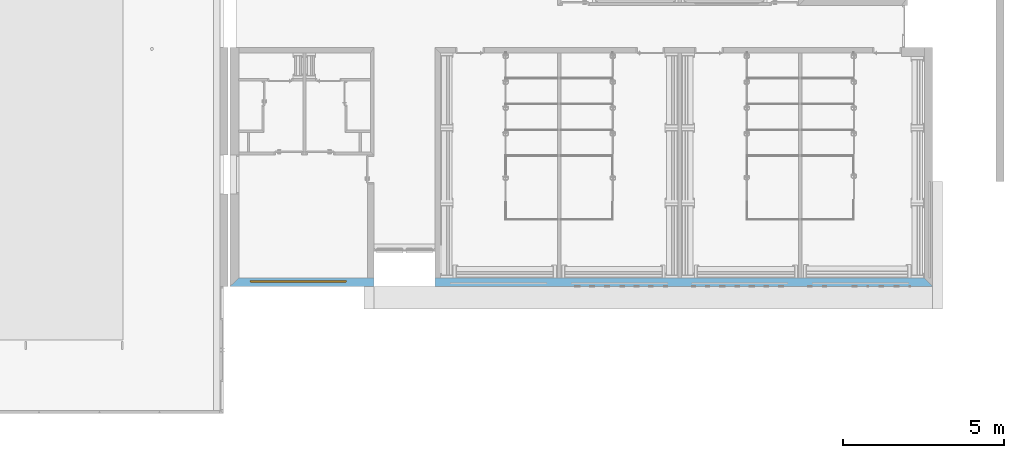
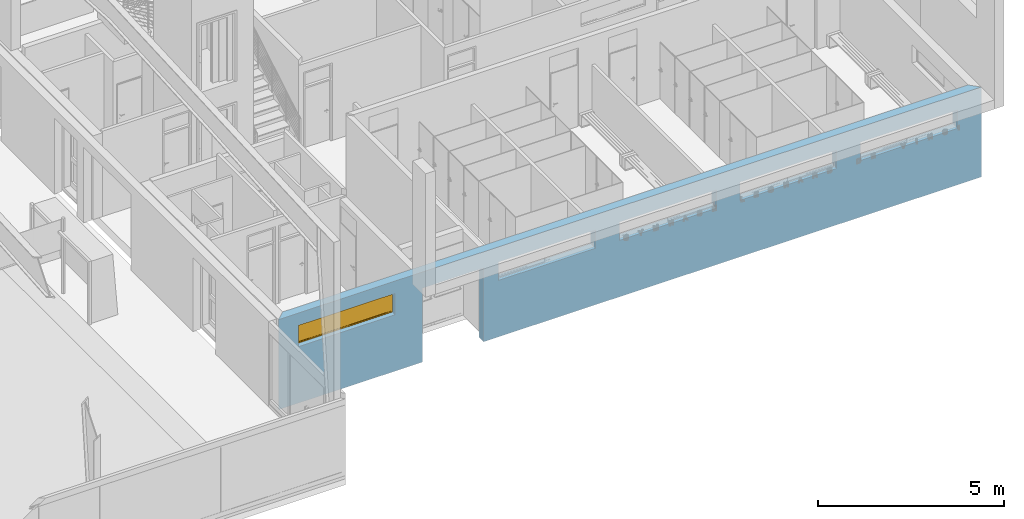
# One storey, part 33 of 45: 1 window, 6 openings, plus 1 element that does not belong to this part.
"""IFC2X3 building model written with IfcOpenShell, lengths in metres."""

from ifc_helpers import new_model, entity, si_unit, converted_unit, money_unit, direction, frame, origin_with_axes, place, context, subcontext, project, spatial, polyline, outline, extrude, open_shell, faceted_brep, surface_model, material, layer, layer_set, layer_usage, type_object, element, fill, save


model = new_model("IFC2X3")

# Units and contexts
model_context = context("Model", 3, precision=1e-05, world=origin_with_axes(), true_north=direction((0.0, 1.0)))
body_context = subcontext(model_context, "Body", "Model", "MODEL_VIEW")
ifc_project = project(units=[si_unit("LENGTHUNIT", "METRE"), si_unit("AREAUNIT", "SQUARE_METRE"), si_unit("VOLUMEUNIT", "CUBIC_METRE"), converted_unit("PLANEANGLEUNIT", "DEGREE", entity("IfcPlaneAngleMeasure", 0.0174532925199), si_unit("PLANEANGLEUNIT", "RADIAN"), dimensions=[0, 0, 0, 0, 0, 0, 0]), si_unit("SOLIDANGLEUNIT", "STERADIAN"), money_unit("EUR"), converted_unit("TIMEUNIT", "Year", entity("IfcTimeMeasure", 31556926.0), si_unit("TIMEUNIT", "SECOND"), dimensions=[0, 0, 0, 0, 0, 0, 0]), si_unit("MASSUNIT", "GRAM"), si_unit("THERMODYNAMICTEMPERATUREUNIT", "DEGREE_CELSIUS"), si_unit("LUMINOUSINTENSITYUNIT", "LUMEN")], contexts=[model_context])

# Site, building, storey
site_placement = place(None, origin_with_axes())
site = spatial("IfcSite", under=ifc_project, at=site_placement, Name="Site", CompositionType="ELEMENT")
building_placement = place(site_placement, origin_with_axes())
building = spatial("IfcBuilding", under=site, at=building_placement, Name="Bâtiment", CompositionType="ELEMENT")
storey_placement = place(building_placement, origin_with_axes())
storey = spatial("IfcBuildingStorey", under=building, at=storey_placement, Name="NIVEAU BAS GYMNASE", CompositionType="ELEMENT", Elevation=0.0)

# Wall, openings, window
ifc_material_1 = material(Name="Hachure solide* 2593434267")
ifc_layer_1 = layer(ifc_material_1, 0.16, ventilated="UNKNOWN")
ifc_material_2 = material(Name="Empty Fill 290923149")
ifc_layer_2 = layer(ifc_material_2, 0.08, ventilated="UNKNOWN")
ifc_material_3 = material(Name="Hachure solide* 3992800808")
ifc_layer_3 = layer(ifc_material_3, 0.02, ventilated="UNKNOWN")
ifc_layer_set = layer_set([ifc_layer_1, ifc_layer_2, ifc_layer_3], Name="•GYMN 16+10 (1)")
ifc_layer_usage = layer_usage(ifc_layer_set, "AXIS2", "POSITIVE", 0.0)
wall_type = type_object("IfcWallType", Name="•GYMN 16+10 260", PredefinedType="NOTDEFINED")
wall_placement = place(storey_placement, frame((45.478457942, 5.86881571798, -0.2), z_axis=(0.0, 0.0, 1.0), x_axis=(1.0, 0.0, 0.0)))
wall = element("IfcWallStandardCase", 1, at=wall_placement, inside=storey, type_object=wall_type, material=ifc_layer_usage, Name="Mur-022", context=body_context, shape_type="SweptSolid", body=[
    extrude(outline(polyline([(0.0, 0.0), (21.78, 0.0), (21.52, 0.26), (0.28, 0.26), (0.0, 0.0)])), origin_with_axes(), (0.0, 0.0, 1.0), 2.95),
])
opening_1_placement = place(wall_placement, frame((12.0763384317, 0.0, 1.85), z_axis=(0.0, 0.0, 1.0), x_axis=(1.0, 0.0, 0.0)))
element("IfcOpeningElement", 2, at=opening_1_placement, cuts=wall, Name="Fen-027", context=body_context, shape_type="SweptSolid", body=[
    extrude(outline(polyline([(1.5, 0.0), (-1.5, 0.0), (-1.5, -0.6), (1.5, -0.6), (1.5, 0.0)])), frame((0.0, 0.12, 0.0), z_axis=(0.0, 1.0, 0.0), x_axis=(1.0, 0.0, 0.0)), (0.0, 0.0, 1.0), 0.4),
    extrude(outline(polyline([(1.5, 0.6), (-1.5, 0.6), (-1.5, 0.0), (1.5, 0.0), (1.5, 0.6)])), frame((0.0, 0.12, 0.0), z_axis=(0.0, -1.0, 0.0), x_axis=(1.0, 0.0, 0.0)), (0.0, 0.0, 1.0), 0.38),
])
opening_2_placement = place(wall_placement, frame((8.32745967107, 0.0, 1.85), z_axis=(0.0, 0.0, 1.0), x_axis=(1.0, 0.0, 0.0)))
element("IfcOpeningElement", 3, at=opening_2_placement, cuts=wall, Name="Fen-028", context=body_context, shape_type="SweptSolid", body=[
    extrude(outline(polyline([(-1.5, 0.0), (-1.5, -0.6), (1.5, -0.6), (1.5, 0.0), (-1.5, 0.0)])), frame((0.0, 0.12, 0.0), z_axis=(0.0, 1.0, 0.0), x_axis=(1.0, 0.0, 0.0)), (0.0, 0.0, 1.0), 0.4),
    extrude(outline(polyline([(-1.5, 0.6), (-1.5, 0.0), (1.5, 0.0), (1.5, 0.6), (-1.5, 0.6)])), frame((0.0, 0.12, 0.0), z_axis=(0.0, -1.0, 0.0), x_axis=(1.0, 0.0, 0.0)), (0.0, 0.0, 1.0), 0.38),
])
opening_3_placement = place(wall_placement, frame((15.8, 0.0, 1.85), z_axis=(0.0, 0.0, 1.0), x_axis=(1.0, 0.0, 0.0)))
element("IfcOpeningElement", 4, at=opening_3_placement, cuts=wall, Name="Fen-026", context=body_context, shape_type="SweptSolid", body=[
    extrude(outline(polyline([(1.5, 0.0), (-1.5, 0.0), (-1.5, -0.6), (1.5, -0.6), (1.5, 0.0)])), frame((0.0, 0.12, 0.0), z_axis=(0.0, 1.0, 0.0), x_axis=(1.0, 0.0, 0.0)), (0.0, 0.0, 1.0), 0.4),
    extrude(outline(polyline([(1.5, 0.6), (-1.5, 0.6), (-1.5, 0.0), (1.5, 0.0), (1.5, 0.6)])), frame((0.0, 0.12, 0.0), z_axis=(0.0, -1.0, 0.0), x_axis=(1.0, 0.0, 0.0)), (0.0, 0.0, 1.0), 0.38),
])
opening_4_placement = place(wall_placement, frame((19.545, 0.0, 1.85), z_axis=(0.0, 0.0, 1.0), x_axis=(1.0, 0.0, 0.0)))
element("IfcOpeningElement", 5, at=opening_4_placement, cuts=wall, Name="Fen-026", context=body_context, shape_type="SweptSolid", body=[
    extrude(outline(polyline([(-1.5, 0.0), (-1.5, -0.6), (1.5, -0.6), (1.5, 0.0), (-1.5, 0.0)])), frame((0.0, 0.12, 0.0), z_axis=(0.0, 1.0, 0.0), x_axis=(1.0, 0.0, 0.0)), (0.0, 0.0, 1.0), 0.4),
    extrude(outline(polyline([(-1.5, 0.6), (-1.5, 0.0), (1.5, 0.0), (1.5, 0.6), (-1.5, 0.6)])), frame((0.0, 0.12, 0.0), z_axis=(0.0, -1.0, 0.0), x_axis=(1.0, 0.0, 0.0)), (0.0, 0.0, 1.0), 0.38),
])
opening_5_placement = place(wall_placement, frame((2.1177436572, 0.0, 1.85), z_axis=(0.0, 0.0, 1.0), x_axis=(1.0, 0.0, 0.0)))
opening_5 = element("IfcOpeningElement", 6, at=opening_5_placement, cuts=wall, Name="Fen-028", context=body_context, shape_type="SweptSolid", body=[
    extrude(outline(polyline([(-1.5, 0.7), (-1.5, 0.0), (1.5, 0.0), (1.5, 0.7), (-1.5, 0.7)])), frame((0.0, 0.18, 0.0), z_axis=(0.0, -1.0, 0.0), x_axis=(1.0, 0.0, 0.0)), (0.0, 0.0, 1.0), 0.44),
    extrude(outline(polyline([(-1.5, 0.0), (-1.5, -0.7), (1.5, -0.7), (1.5, 0.0), (-1.5, 0.0)])), frame((0.0, 0.18, 0.0), z_axis=(0.0, 1.0, 0.0), x_axis=(1.0, 0.0, 0.0)), (0.0, 0.0, 1.0), 0.34),
])
opening_6_placement = place(wall_placement, frame((5.41, 0.0, 0.0), z_axis=(0.0, 0.0, 1.0), x_axis=(1.0, 0.0, 0.0)))
element("IfcOpeningElement", 7, at=opening_6_placement, cuts=wall, Name="Por-001", context=body_context, shape_type="SweptSolid", body=[
    extrude(outline(polyline([(-0.95, 0.0), (-0.95, -2.42), (0.95, -2.42), (0.95, 0.0), (-0.95, 0.0)])), frame((0.0, 0.11, 0.0), z_axis=(0.0, 1.0, 0.0), x_axis=(1.0, 0.0, 0.0)), (0.0, 0.0, 1.0), 0.26),
    extrude(outline(polyline([(-0.95, 2.42), (-0.95, 0.0), (0.95, 0.0), (0.95, 2.42), (-0.95, 2.42)])), frame((0.0, 0.11, 0.0), z_axis=(0.0, -1.0, 0.0), x_axis=(1.0, 0.0, 0.0)), (0.0, 0.0, 1.0), 0.26),
])
ifc_material_4 = material(Name="Sans Trame")
window_style = type_object("IfcWindowStyle", Name="Fen bascule 1 10", ConstructionType="NOTDEFINED", OperationType="SINGLE_PANEL", ParameterTakesPrecedence=False, Sizeable=False)
window_placement = place(opening_5_placement, frame((-1.5, 0.0, 0.0), z_axis=(0.0, 0.0, 1.0), x_axis=(1.0, 0.0, 0.0)))
window = element("IfcWindow", 8, at=window_placement, inside=storey, type_object=window_style, material=ifc_material_4, Name="Fen-028", OverallHeight=0.7, OverallWidth=3.0, context=body_context, shape_type="SurfaceModel", body=[
    faceted_brep([(0.02, 0.14, 0.66), (0.02, 0.16, 0.66), (0.04, 0.16, 0.66), (0.04, 0.18, 0.66), (0.0, 0.18, 0.66), (0.0, 0.14, 0.66), (0.02, 0.14, 0.04), (0.02, 0.16, 0.04), (0.04, 0.16, 0.04), (0.04, 0.18, 0.04), (0.0, 0.18, 0.04), (0.0, 0.14, 0.04)], [[[0, 1, 2, 3, 4, 5]], [[1, 0, 6, 7]], [[8, 2, 1, 7]], [[2, 8, 9, 3]], [[4, 3, 9, 10]], [[5, 4, 10, 11]], [[6, 0, 5, 11]], [[7, 6, 11, 10, 9, 8]]]),
    faceted_brep([(2.96, 0.16, 0.66), (2.98, 0.16, 0.66), (2.98, 0.14, 0.66), (3.0, 0.14, 0.66), (3.0, 0.18, 0.66), (2.96, 0.18, 0.66), (2.96, 0.16, 0.04), (2.98, 0.16, 0.04), (2.98, 0.14, 0.04), (3.0, 0.14, 0.04), (3.0, 0.18, 0.04), (2.96, 0.18, 0.04)], [[[0, 1, 2, 3, 4, 5]], [[1, 0, 6, 7]], [[8, 2, 1, 7]], [[2, 8, 9, 3]], [[9, 10, 4, 3]], [[10, 11, 5, 4]], [[6, 0, 5, 11]], [[7, 6, 11, 10, 9, 8]]]),
    faceted_brep([(0.02, 0.14, 0.66), (0.02, 0.14, 0.68), (2.98, 0.14, 0.68), (2.98, 0.14, 0.66), (3.0, 0.14, 0.66), (3.0, 0.14, 0.7), (0.0, 0.14, 0.7), (0.0, 0.14, 0.66), (0.02, 0.16, 0.66), (0.02, 0.16, 0.68), (2.98, 0.16, 0.68), (2.98, 0.16, 0.66), (2.96, 0.16, 0.66), (2.96, 0.18, 0.66), (3.0, 0.18, 0.66), (3.0, 0.18, 0.7), (0.0, 0.18, 0.7), (0.0, 0.18, 0.66), (0.04, 0.18, 0.66), (0.04, 0.16, 0.66)], [[[0, 1, 2, 3, 4, 5, 6, 7]], [[1, 0, 8, 9]], [[2, 1, 9, 10]], [[3, 2, 10, 11]], [[11, 12, 13, 14, 4, 3]], [[4, 14, 15, 5]], [[5, 15, 16, 6]], [[6, 16, 17, 7]], [[8, 0, 7, 17, 18, 19]], [[12, 11, 10, 9, 8, 19]], [[12, 19, 18, 13]], [[14, 13, 18, 17, 16, 15]]]),
    faceted_brep([(2.96, 0.16, 0.04), (2.98, 0.16, 0.04), (2.98, 0.14, 0.04), (3.0, 0.14, 0.04), (3.0, 0.18, 0.04), (2.96, 0.18, 0.04), (0.04, 0.16, 0.04), (0.02, 0.16, 0.04), (0.02, 0.16, 0.02), (2.98, 0.16, 0.02), (2.98, 0.14, 0.02), (0.02, 0.14, 0.02), (0.02, 0.14, 0.04), (0.0, 0.14, 0.04), (0.0, 0.14, 0.0), (3.0, 0.14, 0.0), (3.0, 0.18, 0.0), (0.0, 0.18, 0.04), (0.04, 0.18, 0.04), (0.0, 0.18, 0.0)], [[[0, 1, 2, 3, 4, 5]], [[1, 0, 6, 7, 8, 9]], [[10, 2, 1, 9]], [[11, 12, 13, 14, 15, 3, 2, 10]], [[15, 16, 4, 3]], [[17, 18, 5, 4, 16, 19]], [[6, 0, 5, 18]], [[7, 6, 18, 17, 13, 12]], [[7, 12, 11, 8]], [[11, 10, 9, 8]], [[13, 17, 19, 14]], [[14, 19, 16, 15]]]),
    faceted_brep([(2.94, 0.16, 0.06), (2.94, 0.12, 0.06), (2.94, 0.12, 0.64), (2.94, 0.16, 0.64), (2.98, 0.16, 0.06), (2.98, 0.12, 0.06), (2.98, 0.12, 0.64), (2.98, 0.16, 0.64)], [[[0, 1, 2, 3]], [[4, 5, 1, 0]], [[1, 5, 6, 2]], [[3, 2, 6, 7]], [[0, 3, 7, 4]], [[7, 6, 5, 4]]]),
    faceted_brep([(0.02, 0.16, 0.06), (0.02, 0.12, 0.06), (0.02, 0.12, 0.64), (0.02, 0.16, 0.64), (0.06, 0.16, 0.06), (0.06, 0.12, 0.06), (0.06, 0.12, 0.64), (0.06, 0.16, 0.64)], [[[0, 1, 2, 3]], [[4, 5, 1, 0]], [[1, 5, 6, 2]], [[3, 2, 6, 7]], [[0, 3, 7, 4]], [[7, 6, 5, 4]]]),
    faceted_brep([(0.02, 0.16, 0.02), (0.02, 0.12, 0.02), (0.02, 0.12, 0.06), (0.02, 0.16, 0.06), (2.98, 0.16, 0.02), (2.98, 0.12, 0.02), (2.98, 0.12, 0.06), (2.94, 0.12, 0.06), (0.06, 0.12, 0.06), (0.06, 0.16, 0.06), (2.94, 0.16, 0.06), (2.98, 0.16, 0.06)], [[[0, 1, 2, 3]], [[4, 5, 1, 0]], [[1, 5, 6, 7, 8, 2]], [[3, 2, 8, 9]], [[0, 3, 9, 10, 11, 4]], [[11, 6, 5, 4]], [[10, 7, 6, 11]], [[9, 8, 7, 10]]]),
    faceted_brep([(2.98, 0.16, 0.68), (2.98, 0.12, 0.68), (2.98, 0.12, 0.64), (2.98, 0.16, 0.64), (0.02, 0.16, 0.68), (0.02, 0.12, 0.68), (0.02, 0.12, 0.64), (0.06, 0.12, 0.64), (2.94, 0.12, 0.64), (2.94, 0.16, 0.64), (0.06, 0.16, 0.64), (0.02, 0.16, 0.64)], [[[0, 1, 2, 3]], [[4, 5, 1, 0]], [[1, 5, 6, 7, 8, 2]], [[3, 2, 8, 9]], [[0, 3, 9, 10, 11, 4]], [[11, 6, 5, 4]], [[10, 7, 6, 11]], [[9, 8, 7, 10]]]),
    surface_model("IfcShellBasedSurfaceModel", [(2.94, 0.15, 0.06), (0.06, 0.15, 0.06), (0.06, 0.15, 0.64), (2.94, 0.15, 0.64)], [open_shell([[[0, 1, 2, 3]]])]),
    surface_model("IfcShellBasedSurfaceModel", [(2.94, 0.13, 0.06), (2.94, 0.13, 0.64), (0.06, 0.13, 0.64), (0.06, 0.13, 0.06)], [open_shell([[[0, 1, 2, 3]]])]),
])
fill(opening_5, window)

save(model, "model.ifc")
